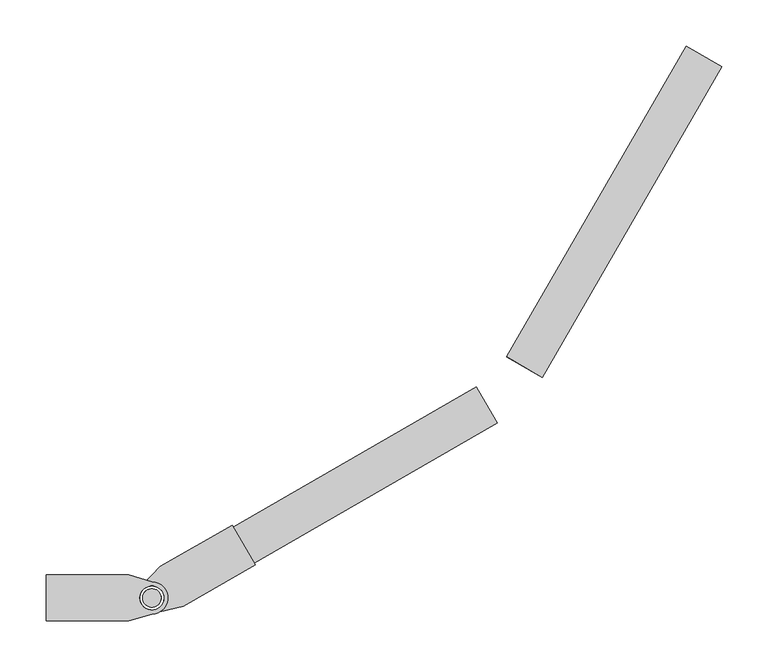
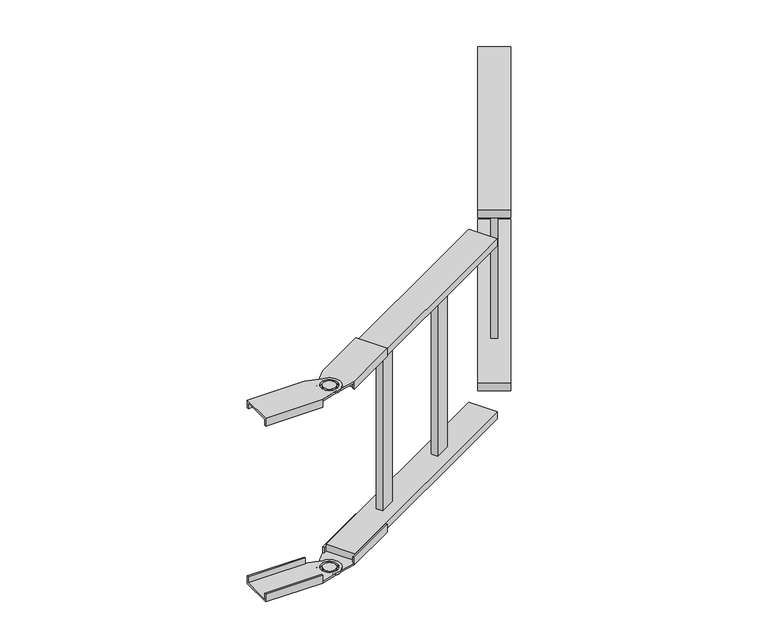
"""IFC4 building model written with IfcOpenShell, lengths in millimetres: cable carrier fitting geometry, BAKS_LD_BEND_Adjustable vertical bend_LPD : LPDP_H45."""

from ifc_helpers import new_model, si_unit, frame, origin, place, context, project, spatial, polyline, circle_curve, outline, extrude, source, transform, mapped, element, save
from ifc_brep_helpers import plane_surface, cylinder_surface, revolved_surface, advanced_brep


def cable_carrier_fitting_a2b46a04(model_context):
    return source(origin(), model_context, "Body", "SolidModel", [
        advanced_brep(
        [(-729.7114317, 25.0, -153.0), (-639.7114317, 25.0, -153.0), (-614.7114317, 17.5, -153.0), (-614.7114317, -17.5, -153.0), (-639.7114317, -25.0, -153.0), (-729.7114317, -25.0, -153.0), (-601.7114317, 0.0, -153.0), (-627.7114317, 0.0, -153.0), (-639.7114317, -25.0, -150.0), (-614.7114317, -17.5, -150.0), (-614.7114317, 17.5, -150.0), (-639.7114317, 25.0, -150.0), (-639.7114317, 22.5, -150.0), (-729.7114317, 22.5, -150.0), (-729.7114317, -22.5, -150.0), (-639.7114317, -22.5, -150.0), (-627.7114317, 0.0, -150.0), (-601.7114317, 0.0, -150.0), (-729.7114317, 25.0, -140.0), (-639.7114317, 25.0, -140.0), (-639.7114317, -25.0, -140.0), (-729.7114317, -25.0, -140.0), (-729.7114317, -22.5, -140.0), (-729.7114317, 22.5, -140.0), (-639.7114317, -22.5, -140.0), (-639.7114317, 22.5, -140.0)],
        [
            (0, 1),
            (1, 2),
            (2, 3, circle_curve(frame((-614.7114317, 0.0, -153.0), z_axis=(0.0, 0.0, -1.0), x_axis=(-1.0, 0.0, 0.0)), 17.5)),
            (3, 4),
            (4, 5),
            (5, 0),
            (6, 7, circle_curve(frame((-614.7114317, 0.0, -153.0), z_axis=(0.0, 0.0, 1.0), x_axis=(-1.0, 0.0, 0.0)), 13.0)),
            (7, 6, circle_curve(frame((-614.7114317, 0.0, -153.0), z_axis=(0.0, 0.0, 1.0), x_axis=(-1.0, 0.0, 0.0)), 13.0)),
            (8, 9),
            (9, 10, circle_curve(frame((-614.7114317, 0.0, -150.0), z_axis=(0.0, 0.0, 1.0), x_axis=(-1.0, 0.0, 0.0)), 17.5)),
            (10, 11),
            (11, 12),
            (12, 13),
            (13, 14),
            (14, 15),
            (15, 8),
            (16, 17, circle_curve(frame((-614.7114317, 0.0, -150.0), z_axis=(0.0, 0.0, -1.0), x_axis=(-1.0, 0.0, 0.0)), 13.0)),
            (17, 16, circle_curve(frame((-614.7114317, 0.0, -150.0), z_axis=(0.0, 0.0, -1.0), x_axis=(-1.0, 0.0, 0.0)), 13.0)),
            (0, 18),
            (18, 19),
            (19, 11),
            (11, 1),
            (4, 8),
            (8, 20),
            (20, 21),
            (21, 5),
            (21, 22),
            (22, 14),
            (13, 23),
            (23, 18),
            (6, 17),
            (16, 7),
            (10, 2),
            (9, 3),
            (20, 24),
            (24, 22),
            (24, 15),
            (23, 25),
            (25, 19),
            (25, 12),
        ],
        [
            plane_surface(frame((-639.7114317, 25.0, -153.0), z_axis=(0.0, 0.0, -1.0), x_axis=(1.0, 0.0, 0.0))),
            plane_surface(frame((-639.7114317, 25.0, -150.0), z_axis=(0.0, 0.0, 1.0), x_axis=(-1.0, 0.0, 0.0))),
            plane_surface(frame((-729.7114317, 25.0, -153.0), z_axis=(0.0, 1.0, 0.0), x_axis=(0.0, 0.0, 1.0))),
            plane_surface(frame((-639.7114317, -25.0, -153.0), z_axis=(0.0, -1.0, 0.0), x_axis=(0.0, 0.0, 1.0))),
            plane_surface(frame((-729.7114317, -25.0, -153.0), z_axis=(-1.0, 0.0, 0.0), x_axis=(0.0, 0.0, 1.0))),
            revolved_surface(polyline([(-627.7114317, 0.0, -153.0), (-627.7114317, 0.0, -150.0)]), (-614.7114317, 0.0, -150.0), (0.0, 0.0, -1.0)),
            plane_surface(frame((-639.7114317, 25.0, -153.0), z_axis=(0.28734788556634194, 0.9578262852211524, 0.0), x_axis=(0.0, 0.0, 1.0))),
            cylinder_surface(frame((-614.7114317, 0.0, -150.0), z_axis=(0.0, 0.0, -1.0), x_axis=(-1.0, 0.0, 0.0)), 17.5),
            plane_surface(frame((-614.7114317, -17.5, -153.0), z_axis=(0.2873478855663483, -0.9578262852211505, 0.0), x_axis=(0.0, 0.0, 1.0))),
            plane_surface(frame((-639.7114317, -22.5, -140.0), z_axis=(0.0, 0.0, 1.0), x_axis=(-1.0, 0.0, 0.0))),
            plane_surface(frame((-729.7114317, -22.5, -150.0), z_axis=(0.0, 1.0, 0.0), x_axis=(0.0, 0.0, 1.0))),
            plane_surface(frame((-639.7114317, -22.5, -150.0), z_axis=(1.0, 0.0, 0.0), x_axis=(0.0, 0.0, 1.0))),
            plane_surface(frame((-639.7114317, 25.0, -140.0), z_axis=(0.0, 0.0, 1.0), x_axis=(-1.0, 0.0, 0.0))),
            plane_surface(frame((-639.7114317, 25.0, -150.0), z_axis=(1.0, 0.0, 0.0), x_axis=(0.0, 0.0, 1.0))),
            plane_surface(frame((-639.7114317, 22.5, -150.0), z_axis=(0.0, -1.0, 0.0), x_axis=(0.0, 0.0, 1.0))),
        ],
        [
            (0, [[1, 2, 3, 4, 5, 6], [7, 8]]),
            (1, [[9, 10, 11, 12, 13, 14, 15, 16], [17, 18]]),
            (2, [[-1, 19, 20, 21, 22]]),
            (3, [[-5, 23, 24, 25, 26]]),
            (4, [[-19, -6, -26, 27, 28, -14, 29, 30]]),
            (5, [[31, -17, 32, -7]]),
            (5, [[-31, -8, -32, -18]]),
            (6, [[-2, -22, -11, 33]]),
            (7, [[-3, -33, -10, 34]]),
            (8, [[-4, -34, -9, -23]]),
            (9, [[-27, -25, 35, 36]]),
            (10, [[-36, 37, -15, -28]]),
            (11, [[-35, -24, -16, -37]]),
            (12, [[-30, 38, 39, -20]]),
            (13, [[-39, 40, -12, -21]]),
            (14, [[-38, -29, -13, -40]]),
        ],
    ),
        advanced_brep(
        [(-604.7114317, 0.0, -153.0), (-624.7114317, 0.0, -153.0), (-624.7114317, 0.0, -150.0), (-604.7114317, 0.0, -150.0)],
        [
            (0, 1, circle_curve(frame((-614.7114317, 0.0, -153.0), z_axis=(0.0, 0.0, -1.0), x_axis=(-1.0, 0.0, 0.0)), 10.0)),
            (1, 0, circle_curve(frame((-614.7114317, 0.0, -153.0), z_axis=(0.0, 0.0, -1.0), x_axis=(-1.0, 0.0, 0.0)), 10.0)),
            (2, 3, circle_curve(frame((-614.7114317, 0.0, -150.0), z_axis=(0.0, 0.0, 1.0), x_axis=(-1.0, 0.0, 0.0)), 10.0)),
            (3, 2, circle_curve(frame((-614.7114317, 0.0, -150.0), z_axis=(0.0, 0.0, 1.0), x_axis=(-1.0, 0.0, 0.0)), 10.0)),
            (0, 3),
            (2, 1),
        ],
        [
            plane_surface(frame((-639.7114317, 25.0, -153.0), z_axis=(0.0, 0.0, -1.0), x_axis=(1.0, 0.0, 0.0))),
            plane_surface(frame((-639.7114317, 25.0, -150.0), z_axis=(0.0, 0.0, 1.0), x_axis=(-1.0, 0.0, 0.0))),
            cylinder_surface(frame((-614.7114317, 0.0, -150.0), z_axis=(0.0, 0.0, 1.0), x_axis=(-1.0, 0.0, 0.0)), 10.0),
        ],
        [
            (0, [[1, 2]]),
            (1, [[3, 4]]),
            (2, [[5, -3, 6, -1]]),
            (2, [[-5, -2, -6, -4]]),
        ],
    ),
        advanced_brep(
        [(-527.6185103, 79.1506351, -153.0), (-502.6185103, 35.8493649, -153.0), (-580.5607966, -9.1506351, -153.0), (-605.9614317, -15.1554446, -153.0), (-623.4614317, 15.1554446, -153.0), (-605.5607966, 34.1506351, -153.0), (-625.969762, -6.5, -153.0), (-603.4531015, 6.5, -153.0), (-580.5607966, -9.1506351, -150.0), (-581.8107966, -6.9855716, -150.0), (-503.8685103, 38.0144284, -150.0), (-526.3685103, 76.9855716, -150.0), (-604.3107966, 31.9855716, -150.0), (-605.5607966, 34.1506351, -150.0), (-623.4614317, 15.1554446, -150.0), (-605.9614317, -15.1554446, -150.0), (-603.4531015, 6.5, -150.0), (-625.969762, -6.5, -150.0), (-605.5607966, 34.1506351, -140.0), (-527.6185103, 79.1506351, -140.0), (-502.6185103, 35.8493649, -140.0), (-580.5607966, -9.1506351, -140.0), (-526.3685103, 76.9855716, -140.0), (-503.8685103, 38.0144284, -140.0), (-581.8107966, -6.9855716, -140.0), (-604.3107966, 31.9855716, -140.0)],
        [
            (0, 1),
            (1, 2),
            (2, 3),
            (3, 4, circle_curve(frame((-614.7114317, 0.0, -153.0), z_axis=(0.0, 0.0, -1.0), x_axis=(0.8660254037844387, 0.49999999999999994, 0.0)), 17.5)),
            (4, 5),
            (5, 0),
            (6, 7, circle_curve(frame((-614.7114317, 0.0, -153.0), z_axis=(0.0, 0.0, 1.0), x_axis=(0.8660254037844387, 0.49999999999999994, 0.0)), 13.0)),
            (7, 6, circle_curve(frame((-614.7114317, 0.0, -153.0), z_axis=(0.0, 0.0, 1.0), x_axis=(0.8660254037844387, 0.49999999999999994, 0.0)), 13.0)),
            (8, 9),
            (9, 10),
            (10, 11),
            (11, 12),
            (12, 13),
            (13, 14),
            (14, 15, circle_curve(frame((-614.7114317, 0.0, -150.0), z_axis=(0.0, 0.0, 1.0), x_axis=(0.8660254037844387, 0.49999999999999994, 0.0)), 17.5)),
            (15, 8),
            (16, 17, circle_curve(frame((-614.7114317, 0.0, -150.0), z_axis=(0.0, 0.0, -1.0), x_axis=(0.8660254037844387, 0.49999999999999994, 0.0)), 13.0)),
            (17, 16, circle_curve(frame((-614.7114317, 0.0, -150.0), z_axis=(0.0, 0.0, -1.0), x_axis=(0.8660254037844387, 0.49999999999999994, 0.0)), 13.0)),
            (5, 13),
            (13, 18),
            (18, 19),
            (19, 0),
            (1, 20),
            (20, 21),
            (21, 8),
            (8, 2),
            (19, 22),
            (22, 11),
            (10, 23),
            (23, 20),
            (7, 16),
            (17, 6),
            (4, 14),
            (3, 15),
            (23, 24),
            (24, 21),
            (9, 24),
            (18, 25),
            (25, 22),
            (12, 25),
        ],
        [
            plane_surface(frame((-605.5607966, 34.1506351, -153.0), z_axis=(0.0, 0.0, -1.0), x_axis=(-0.8660254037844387, -0.49999999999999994, 0.0))),
            plane_surface(frame((-605.5607966, 34.1506351, -150.0), z_axis=(0.0, 0.0, 1.0), x_axis=(0.8660254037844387, 0.49999999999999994, 0.0))),
            plane_surface(frame((-527.6185103, 79.1506351, -153.0), z_axis=(-0.49999999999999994, 0.8660254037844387, 0.0), x_axis=(0.0, 0.0, 1.0))),
            plane_surface(frame((-580.5607966, -9.1506351, -153.0), z_axis=(0.49999999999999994, -0.8660254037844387, 0.0), x_axis=(0.0, 0.0, 1.0))),
            plane_surface(frame((-502.6185103, 35.8493649, -153.0), z_axis=(0.8660254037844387, 0.49999999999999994, 0.0), x_axis=(0.0, 0.0, 1.0))),
            revolved_surface(polyline([(-603.4531014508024, 6.499999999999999, -153.0), (-603.4531014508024, 6.499999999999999, -150.0)]), (-614.7114317, 0.0, -150.0), (0.0, 0.0, -1.0)),
            plane_surface(frame((-605.5607966, 34.1506351, -153.0), z_axis=(-0.7277637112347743, 0.6858279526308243, 0.0), x_axis=(0.0, 0.0, 1.0))),
            cylinder_surface(frame((-614.7114317, 0.0, -150.0), z_axis=(0.0, 0.0, -1.0), x_axis=(0.8660254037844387, 0.49999999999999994, 0.0)), 17.5),
            plane_surface(frame((-605.9614317, -15.1554446, -153.0), z_axis=(0.2300625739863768, -0.9731758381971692, 0.0), x_axis=(0.0, 0.0, 1.0))),
            plane_surface(frame((-581.8107966, -6.9855716, -140.0), z_axis=(0.0, 0.0, 1.0), x_axis=(0.8660254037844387, 0.49999999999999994, 0.0))),
            plane_surface(frame((-503.8685103, 38.0144284, -150.0), z_axis=(-0.49999999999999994, 0.8660254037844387, 0.0), x_axis=(0.0, 0.0, 1.0))),
            plane_surface(frame((-581.8107966, -6.9855716, -150.0), z_axis=(-0.8660254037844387, -0.49999999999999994, 0.0), x_axis=(0.0, 0.0, 1.0))),
            plane_surface(frame((-605.5607966, 34.1506351, -140.0), z_axis=(0.0, 0.0, 1.0), x_axis=(0.8660254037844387, 0.49999999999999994, 0.0))),
            plane_surface(frame((-605.5607966, 34.1506351, -150.0), z_axis=(-0.8660254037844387, -0.49999999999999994, 0.0), x_axis=(0.0, 0.0, 1.0))),
            plane_surface(frame((-604.3107966, 31.9855716, -150.0), z_axis=(0.49999999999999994, -0.8660254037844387, 0.0), x_axis=(0.0, 0.0, 1.0))),
        ],
        [
            (0, [[1, 2, 3, 4, 5, 6], [7, 8]]),
            (1, [[9, 10, 11, 12, 13, 14, 15, 16], [17, 18]]),
            (2, [[19, 20, 21, 22, -6]]),
            (3, [[23, 24, 25, 26, -2]]),
            (4, [[27, 28, -11, 29, 30, -23, -1, -22]]),
            (5, [[-8, 31, -18, 32]]),
            (5, [[-17, -31, -7, -32]]),
            (6, [[33, -14, -19, -5]]),
            (7, [[34, -15, -33, -4]]),
            (8, [[-26, -16, -34, -3]]),
            (9, [[35, 36, -24, -30]]),
            (10, [[-29, -10, 37, -35]]),
            (11, [[-37, -9, -25, -36]]),
            (12, [[-21, 38, 39, -27]]),
            (13, [[-20, -13, 40, -38]]),
            (14, [[-40, -12, -28, -39]]),
        ],
    ),
        advanced_brep(
        [(-623.3716857, -5.0, -153.0), (-606.0511777, 5.0, -153.0), (-606.0511777, 5.0, -150.0), (-623.3716857, -5.0, -150.0)],
        [
            (0, 1, circle_curve(frame((-614.7114317, 0.0, -153.0), z_axis=(0.0, 0.0, -1.0), x_axis=(0.8660254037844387, 0.49999999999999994, 0.0)), 10.0)),
            (1, 0, circle_curve(frame((-614.7114317, 0.0, -153.0), z_axis=(0.0, 0.0, -1.0), x_axis=(0.8660254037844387, 0.49999999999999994, 0.0)), 10.0)),
            (2, 3, circle_curve(frame((-614.7114317, 0.0, -150.0), z_axis=(0.0, 0.0, 1.0), x_axis=(0.8660254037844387, 0.49999999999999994, 0.0)), 10.0)),
            (3, 2, circle_curve(frame((-614.7114317, 0.0, -150.0), z_axis=(0.0, 0.0, 1.0), x_axis=(0.8660254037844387, 0.49999999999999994, 0.0)), 10.0)),
            (1, 2),
            (3, 0),
        ],
        [
            plane_surface(frame((-605.5607966, 34.1506351, -153.0), z_axis=(0.0, 0.0, -1.0), x_axis=(-0.8660254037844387, -0.49999999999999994, 0.0))),
            plane_surface(frame((-605.5607966, 34.1506351, -150.0), z_axis=(0.0, 0.0, 1.0), x_axis=(0.8660254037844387, 0.49999999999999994, 0.0))),
            cylinder_surface(frame((-614.7114317, 0.0, -150.0), z_axis=(0.0, 0.0, 1.0), x_axis=(0.8660254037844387, 0.49999999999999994, 0.0)), 10.0),
        ],
        [
            (0, [[1, 2]]),
            (1, [[3, 4]]),
            (2, [[-2, 5, -4, 6]]),
            (2, [[-3, -5, -1, -6]]),
        ],
    ),
        advanced_brep(
        [(-729.7114317, 25.0, 153.0), (-729.7114317, -25.0, 153.0), (-639.7114317, -25.0, 153.0), (-614.7114317, -17.5, 153.0), (-614.7114317, 17.5, 153.0), (-639.7114317, 25.0, 153.0), (-601.7114317, 0.0, 153.0), (-627.7114317, 0.0, 153.0), (-639.7114317, -25.0, 150.0), (-639.7114317, -22.5, 150.0), (-729.7114317, -22.5, 150.0), (-729.7114317, 22.5, 150.0), (-639.7114317, 22.5, 150.0), (-639.7114317, 25.0, 150.0), (-614.7114317, 17.5, 150.0), (-614.7114317, -17.5, 150.0), (-627.7114317, 0.0, 150.0), (-601.7114317, 0.0, 150.0), (-639.7114317, 25.0, 140.0), (-729.7114317, 25.0, 140.0), (-729.7114317, -25.0, 140.0), (-639.7114317, -25.0, 140.0), (-729.7114317, 22.5, 140.0), (-729.7114317, -22.5, 140.0), (-639.7114317, -22.5, 140.0), (-639.7114317, 22.5, 140.0)],
        [
            (0, 1),
            (1, 2),
            (2, 3),
            (3, 4, circle_curve(frame((-614.7114317, 0.0, 153.0), z_axis=(0.0, 0.0, 1.0), x_axis=(-1.0, 0.0, 0.0)), 17.5)),
            (4, 5),
            (5, 0),
            (6, 7, circle_curve(frame((-614.7114317, 0.0, 153.0), z_axis=(0.0, 0.0, -1.0), x_axis=(-1.0, 0.0, 0.0)), 13.0)),
            (7, 6, circle_curve(frame((-614.7114317, 0.0, 153.0), z_axis=(0.0, 0.0, -1.0), x_axis=(-1.0, 0.0, 0.0)), 13.0)),
            (8, 9),
            (9, 10),
            (10, 11),
            (11, 12),
            (12, 13),
            (13, 14),
            (14, 15, circle_curve(frame((-614.7114317, 0.0, 150.0), z_axis=(0.0, 0.0, -1.0), x_axis=(-1.0, 0.0, 0.0)), 17.5)),
            (15, 8),
            (16, 17, circle_curve(frame((-614.7114317, 0.0, 150.0), z_axis=(0.0, 0.0, 1.0), x_axis=(-1.0, 0.0, 0.0)), 13.0)),
            (17, 16, circle_curve(frame((-614.7114317, 0.0, 150.0), z_axis=(0.0, 0.0, 1.0), x_axis=(-1.0, 0.0, 0.0)), 13.0)),
            (5, 13),
            (13, 18),
            (18, 19),
            (19, 0),
            (1, 20),
            (20, 21),
            (21, 8),
            (8, 2),
            (19, 22),
            (22, 11),
            (10, 23),
            (23, 20),
            (7, 16),
            (17, 6),
            (4, 14),
            (3, 15),
            (23, 24),
            (24, 21),
            (9, 24),
            (18, 25),
            (25, 22),
            (12, 25),
        ],
        [
            plane_surface(frame((-639.7114317, 25.0, 153.0), z_axis=(0.0, 0.0, 1.0), x_axis=(1.0, 0.0, 0.0))),
            plane_surface(frame((-639.7114317, 25.0, 150.0), z_axis=(0.0, 0.0, -1.0), x_axis=(-1.0, 0.0, 0.0))),
            plane_surface(frame((-729.7114317, 25.0, 153.0), z_axis=(0.0, 1.0, 0.0), x_axis=(0.0, 0.0, -1.0))),
            plane_surface(frame((-639.7114317, -25.0, 153.0), z_axis=(0.0, -1.0, 0.0), x_axis=(0.0, 0.0, -1.0))),
            plane_surface(frame((-729.7114317, -25.0, 153.0), z_axis=(-1.0, 0.0, 0.0), x_axis=(0.0, 0.0, -1.0))),
            revolved_surface(polyline([(-627.7114317, 0.0, 153.0), (-627.7114317, 0.0, 150.0)]), (-614.7114317, 0.0, 150.0), (0.0, 0.0, 1.0)),
            plane_surface(frame((-639.7114317, 25.0, 153.0), z_axis=(0.28734788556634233, 0.9578262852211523, 0.0), x_axis=(0.0, 0.0, -1.0))),
            cylinder_surface(frame((-614.7114317, 0.0, 150.0), z_axis=(0.0, 0.0, 1.0), x_axis=(-1.0, 0.0, 0.0)), 17.5),
            plane_surface(frame((-614.7114317, -17.5, 153.0), z_axis=(0.28734788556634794, -0.9578262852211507, 0.0), x_axis=(0.0, 0.0, -1.0))),
            plane_surface(frame((-639.7114317, -22.5, 140.0), z_axis=(0.0, 0.0, -1.0), x_axis=(-1.0, 0.0, 0.0))),
            plane_surface(frame((-729.7114317, -22.5, 150.0), z_axis=(0.0, 1.0, 0.0), x_axis=(0.0, 0.0, -1.0))),
            plane_surface(frame((-639.7114317, -22.5, 150.0), z_axis=(1.0, 0.0, 0.0), x_axis=(0.0, 0.0, -1.0))),
            plane_surface(frame((-639.7114317, 25.0, 140.0), z_axis=(0.0, 0.0, -1.0), x_axis=(-1.0, 0.0, 0.0))),
            plane_surface(frame((-639.7114317, 25.0, 150.0), z_axis=(1.0, 0.0, 0.0), x_axis=(0.0, 0.0, -1.0))),
            plane_surface(frame((-639.7114317, 22.5, 150.0), z_axis=(0.0, -1.0, 0.0), x_axis=(0.0, 0.0, -1.0))),
        ],
        [
            (0, [[1, 2, 3, 4, 5, 6], [7, 8]]),
            (1, [[9, 10, 11, 12, 13, 14, 15, 16], [17, 18]]),
            (2, [[19, 20, 21, 22, -6]]),
            (3, [[23, 24, 25, 26, -2]]),
            (4, [[27, 28, -11, 29, 30, -23, -1, -22]]),
            (5, [[-8, 31, -18, 32]]),
            (5, [[-17, -31, -7, -32]]),
            (6, [[33, -14, -19, -5]]),
            (7, [[34, -15, -33, -4]]),
            (8, [[-26, -16, -34, -3]]),
            (9, [[35, 36, -24, -30]]),
            (10, [[-29, -10, 37, -35]]),
            (11, [[-37, -9, -25, -36]]),
            (12, [[-21, 38, 39, -27]]),
            (13, [[-20, -13, 40, -38]]),
            (14, [[-40, -12, -28, -39]]),
        ],
    ),
        advanced_brep(
        [(-604.7114317, 0.0, 153.0), (-624.7114317, 0.0, 153.0), (-624.7114317, 0.0, 150.0), (-604.7114317, 0.0, 150.0)],
        [
            (0, 1, circle_curve(frame((-614.7114317, 0.0, 153.0), z_axis=(0.0, 0.0, 1.0), x_axis=(-1.0, 0.0, 0.0)), 10.0)),
            (1, 0, circle_curve(frame((-614.7114317, 0.0, 153.0), z_axis=(0.0, 0.0, 1.0), x_axis=(-1.0, 0.0, 0.0)), 10.0)),
            (2, 3, circle_curve(frame((-614.7114317, 0.0, 150.0), z_axis=(0.0, 0.0, -1.0), x_axis=(-1.0, 0.0, 0.0)), 10.0)),
            (3, 2, circle_curve(frame((-614.7114317, 0.0, 150.0), z_axis=(0.0, 0.0, -1.0), x_axis=(-1.0, 0.0, 0.0)), 10.0)),
            (1, 2),
            (3, 0),
        ],
        [
            plane_surface(frame((-639.7114317, 25.0, 153.0), z_axis=(0.0, 0.0, 1.0), x_axis=(1.0, 0.0, 0.0))),
            plane_surface(frame((-639.7114317, 25.0, 150.0), z_axis=(0.0, 0.0, -1.0), x_axis=(-1.0, 0.0, 0.0))),
            cylinder_surface(frame((-614.7114317, 0.0, 150.0), z_axis=(0.0, 0.0, -1.0), x_axis=(-1.0, 0.0, 0.0)), 10.0),
        ],
        [
            (0, [[1, 2]]),
            (1, [[3, 4]]),
            (2, [[-2, 5, -4, 6]]),
            (2, [[-3, -5, -1, -6]]),
        ],
    ),
        advanced_brep(
        [(-527.6185103, 79.1506351, 153.0), (-605.5607966, 34.1506351, 153.0), (-623.4614317, 15.1554446, 153.0), (-605.9614317, -15.1554446, 153.0), (-580.5607966, -9.1506351, 153.0), (-502.6185103, 35.8493649, 153.0), (-625.969762, -6.5, 153.0), (-603.4531015, 6.5, 153.0), (-580.5607966, -9.1506351, 150.0), (-605.9614317, -15.1554446, 150.0), (-623.4614317, 15.1554446, 150.0), (-605.5607966, 34.1506351, 150.0), (-604.3107966, 31.9855716, 150.0), (-526.3685103, 76.9855716, 150.0), (-503.8685103, 38.0144284, 150.0), (-581.8107966, -6.9855716, 150.0), (-603.4531015, 6.5, 150.0), (-625.969762, -6.5, 150.0), (-527.6185103, 79.1506351, 140.0), (-605.5607966, 34.1506351, 140.0), (-580.5607966, -9.1506351, 140.0), (-502.6185103, 35.8493649, 140.0), (-503.8685103, 38.0144284, 140.0), (-526.3685103, 76.9855716, 140.0), (-581.8107966, -6.9855716, 140.0), (-604.3107966, 31.9855716, 140.0)],
        [
            (0, 1),
            (1, 2),
            (2, 3, circle_curve(frame((-614.7114317, 0.0, 153.0), z_axis=(0.0, 0.0, 1.0), x_axis=(0.8660254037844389, 0.4999999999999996, 0.0)), 17.5)),
            (3, 4),
            (4, 5),
            (5, 0),
            (6, 7, circle_curve(frame((-614.7114317, 0.0, 153.0), z_axis=(0.0, 0.0, -1.0), x_axis=(0.8660254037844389, 0.4999999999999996, 0.0)), 13.0)),
            (7, 6, circle_curve(frame((-614.7114317, 0.0, 153.0), z_axis=(0.0, 0.0, -1.0), x_axis=(0.8660254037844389, 0.4999999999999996, 0.0)), 13.0)),
            (8, 9),
            (9, 10, circle_curve(frame((-614.7114317, 0.0, 150.0), z_axis=(0.0, 0.0, -1.0), x_axis=(0.8660254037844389, 0.4999999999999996, 0.0)), 17.5)),
            (10, 11),
            (11, 12),
            (12, 13),
            (13, 14),
            (14, 15),
            (15, 8),
            (16, 17, circle_curve(frame((-614.7114317, 0.0, 150.0), z_axis=(0.0, 0.0, 1.0), x_axis=(0.8660254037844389, 0.4999999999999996, 0.0)), 13.0)),
            (17, 16, circle_curve(frame((-614.7114317, 0.0, 150.0), z_axis=(0.0, 0.0, 1.0), x_axis=(0.8660254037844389, 0.4999999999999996, 0.0)), 13.0)),
            (0, 18),
            (18, 19),
            (19, 11),
            (11, 1),
            (4, 8),
            (8, 20),
            (20, 21),
            (21, 5),
            (21, 22),
            (22, 14),
            (13, 23),
            (23, 18),
            (6, 17),
            (16, 7),
            (10, 2),
            (9, 3),
            (20, 24),
            (24, 22),
            (24, 15),
            (23, 25),
            (25, 19),
            (25, 12),
        ],
        [
            plane_surface(frame((-605.5607966, 34.1506351, 153.0), z_axis=(0.0, 0.0, 1.0), x_axis=(-0.8660254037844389, -0.4999999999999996, 0.0))),
            plane_surface(frame((-605.5607966, 34.1506351, 150.0), z_axis=(0.0, 0.0, -1.0), x_axis=(0.8660254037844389, 0.4999999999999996, 0.0))),
            plane_surface(frame((-527.6185103, 79.1506351, 153.0), z_axis=(-0.4999999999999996, 0.8660254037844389, 0.0), x_axis=(0.0, 0.0, -1.0))),
            plane_surface(frame((-580.5607966, -9.1506351, 153.0), z_axis=(0.4999999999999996, -0.8660254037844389, 0.0), x_axis=(0.0, 0.0, -1.0))),
            plane_surface(frame((-502.6185103, 35.8493649, 153.0), z_axis=(0.8660254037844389, 0.4999999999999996, 0.0), x_axis=(0.0, 0.0, -1.0))),
            revolved_surface(polyline([(-603.4531014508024, 6.499999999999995, 153.0), (-603.4531014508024, 6.499999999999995, 150.0)]), (-614.7114317, 0.0, 150.0), (0.0, 0.0, 1.0)),
            plane_surface(frame((-605.5607966, 34.1506351, 153.0), z_axis=(-0.7277637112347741, 0.6858279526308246, 0.0), x_axis=(0.0, 0.0, -1.0))),
            cylinder_surface(frame((-614.7114317, 0.0, 150.0), z_axis=(0.0, 0.0, 1.0), x_axis=(0.8660254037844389, 0.4999999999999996, 0.0)), 17.5),
            plane_surface(frame((-605.9614317, -15.1554446, 153.0), z_axis=(0.23006257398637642, -0.9731758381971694, 0.0), x_axis=(0.0, 0.0, -1.0))),
            plane_surface(frame((-581.8107966, -6.9855716, 140.0), z_axis=(0.0, 0.0, -1.0), x_axis=(0.8660254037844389, 0.4999999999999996, 0.0))),
            plane_surface(frame((-503.8685103, 38.0144284, 150.0), z_axis=(-0.4999999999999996, 0.8660254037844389, 0.0), x_axis=(0.0, 0.0, -1.0))),
            plane_surface(frame((-581.8107966, -6.9855716, 150.0), z_axis=(-0.8660254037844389, -0.4999999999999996, 0.0), x_axis=(0.0, 0.0, -1.0))),
            plane_surface(frame((-605.5607966, 34.1506351, 140.0), z_axis=(0.0, 0.0, -1.0), x_axis=(0.8660254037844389, 0.4999999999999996, 0.0))),
            plane_surface(frame((-605.5607966, 34.1506351, 150.0), z_axis=(-0.8660254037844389, -0.4999999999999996, 0.0), x_axis=(0.0, 0.0, -1.0))),
            plane_surface(frame((-604.3107966, 31.9855716, 150.0), z_axis=(0.4999999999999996, -0.8660254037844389, 0.0), x_axis=(0.0, 0.0, -1.0))),
        ],
        [
            (0, [[1, 2, 3, 4, 5, 6], [7, 8]]),
            (1, [[9, 10, 11, 12, 13, 14, 15, 16], [17, 18]]),
            (2, [[-1, 19, 20, 21, 22]]),
            (3, [[-5, 23, 24, 25, 26]]),
            (4, [[-19, -6, -26, 27, 28, -14, 29, 30]]),
            (5, [[31, -17, 32, -7]]),
            (5, [[-31, -8, -32, -18]]),
            (6, [[-2, -22, -11, 33]]),
            (7, [[-3, -33, -10, 34]]),
            (8, [[-4, -34, -9, -23]]),
            (9, [[-27, -25, 35, 36]]),
            (10, [[-36, 37, -15, -28]]),
            (11, [[-35, -24, -16, -37]]),
            (12, [[-30, 38, 39, -20]]),
            (13, [[-39, 40, -12, -21]]),
            (14, [[-38, -29, -13, -40]]),
        ],
    ),
        advanced_brep(
        [(-623.3716857, -5.0, 153.0), (-606.0511777, 5.0, 153.0), (-606.0511777, 5.0, 150.0), (-623.3716857, -5.0, 150.0)],
        [
            (0, 1, circle_curve(frame((-614.7114317, 0.0, 153.0), z_axis=(0.0, 0.0, 1.0), x_axis=(0.8660254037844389, 0.4999999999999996, 0.0)), 10.0)),
            (1, 0, circle_curve(frame((-614.7114317, 0.0, 153.0), z_axis=(0.0, 0.0, 1.0), x_axis=(0.8660254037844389, 0.4999999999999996, 0.0)), 10.0)),
            (2, 3, circle_curve(frame((-614.7114317, 0.0, 150.0), z_axis=(0.0, 0.0, -1.0), x_axis=(0.8660254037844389, 0.4999999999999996, 0.0)), 10.0)),
            (3, 2, circle_curve(frame((-614.7114317, 0.0, 150.0), z_axis=(0.0, 0.0, -1.0), x_axis=(0.8660254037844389, 0.4999999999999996, 0.0)), 10.0)),
            (0, 3),
            (2, 1),
        ],
        [
            plane_surface(frame((-605.5607966, 34.1506351, 153.0), z_axis=(0.0, 0.0, 1.0), x_axis=(-0.8660254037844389, -0.4999999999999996, 0.0))),
            plane_surface(frame((-605.5607966, 34.1506351, 150.0), z_axis=(0.0, 0.0, -1.0), x_axis=(0.8660254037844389, 0.4999999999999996, 0.0))),
            cylinder_surface(frame((-614.7114317, 0.0, 150.0), z_axis=(0.0, 0.0, -1.0), x_axis=(0.8660254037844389, 0.4999999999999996, 0.0)), 10.0),
        ],
        [
            (0, [[1, 2]]),
            (1, [[3, 4]]),
            (2, [[5, -3, 6, -1]]),
            (2, [[-5, -2, -6, -4]]),
        ],
    ),
        extrude(outline(polyline([(-64.319873, 493.3061438), (-77.019873, 471.3090985), (-85.680127, 476.3090985), (-72.980127, 498.3061438), (-64.319873, 493.3061438)])), frame((0.0, 0.0, -138.0), z_axis=(0.0, 0.0, 1.0), x_axis=(1.0, 0.0, 0.0)), (0.0, 0.0, 1.0), 276.0),
        extrude(outline(polyline([(-139.319873, 363.4023332), (-152.019873, 341.4052879), (-160.680127, 346.4052879), (-147.980127, 368.4023332), (-139.319873, 363.4023332)])), frame((0.0, 0.0, -138.0), z_axis=(0.0, 0.0, 1.0), x_axis=(1.0, 0.0, 0.0)), (0.0, 0.0, 1.0), 276.0),
        extrude(outline(polyline([(-190.5144284, 239.7307621), (-229.4855716, 262.2307621), (-34.4855716, 599.9806696), (4.4855716, 577.4806696), (-190.5144284, 239.7307621)])), frame((0.0, 0.0, -150.0), z_axis=(0.0, 0.0, 1.0), x_axis=(1.0, 0.0, 0.0)), (0.0, 0.0, 1.0), 12.0),
        extrude(outline(polyline([(-190.5144284, 239.7307621), (-229.4855716, 262.2307621), (-34.4855716, 599.9806696), (4.4855716, 577.4806696), (-190.5144284, 239.7307621)])), frame((0.0, 0.0, 138.0), z_axis=(0.0, 0.0, 1.0), x_axis=(1.0, 0.0, 0.0)), (0.0, 0.0, 1.0), 12.0),
        extrude(outline(polyline([(-341.4052879, 152.019873), (-363.4023332, 139.319873), (-368.4023332, 147.980127), (-346.4052879, 160.680127), (-341.4052879, 152.019873)])), frame((0.0, 0.0, -138.0), z_axis=(0.0, 0.0, 1.0), x_axis=(1.0, 0.0, 0.0)), (0.0, 0.0, 1.0), 276.0),
        extrude(outline(polyline([(-471.3090985, 77.019873), (-493.3061438, 64.319873), (-498.3061438, 72.980127), (-476.3090985, 85.680127), (-471.3090985, 77.019873)])), frame((0.0, 0.0, -138.0), z_axis=(0.0, 0.0, 1.0), x_axis=(1.0, 0.0, 0.0)), (0.0, 0.0, 1.0), 276.0),
        extrude(outline(polyline([(-577.4806696, -4.4855716), (-599.9806696, 34.4855716), (-262.2307621, 229.4855716), (-239.7307621, 190.5144284), (-577.4806696, -4.4855716)])), frame((0.0, 0.0, -150.0), z_axis=(0.0, 0.0, 1.0), x_axis=(1.0, 0.0, 0.0)), (0.0, 0.0, 1.0), 12.0),
        extrude(outline(polyline([(-577.4806696, -4.4855716), (-599.9806696, 34.4855716), (-262.2307621, 229.4855716), (-239.7307621, 190.5144284), (-577.4806696, -4.4855716)])), frame((0.0, 0.0, 138.0), z_axis=(0.0, 0.0, 1.0), x_axis=(1.0, 0.0, 0.0)), (0.0, 0.0, 1.0), 12.0),
    ])


if __name__ == "__main__":
    model = new_model("IFC4")
    model_context = context("Model", 3, world=origin())
    ifc_project = project(units=[si_unit("LENGTHUNIT", "METRE", prefix="MILLI")], contexts=[model_context])
    site = spatial("IfcSite", under=ifc_project)
    building = spatial("IfcBuilding", under=site)
    placement = place(None, origin())
    cable_carrier_fitting_shape = cable_carrier_fitting_a2b46a04(model_context)
    element("IfcCableCarrierFitting", 1, ObjectType="BAKS_LD_BEND_Adjustable vertical bend_LPD : LPDP_H45", at=placement, inside=building, context=model_context, shape_type="MappedRepresentation", body=[
        mapped(cable_carrier_fitting_shape, transform((0.0, 0.0, 0.0), x_axis=(1.0, 0.0, 0.0), y_axis=(0.0, 1.0, 0.0), z_axis=(0.0, 0.0, 1.0))),
    ])
    save(model, "model.ifc")
